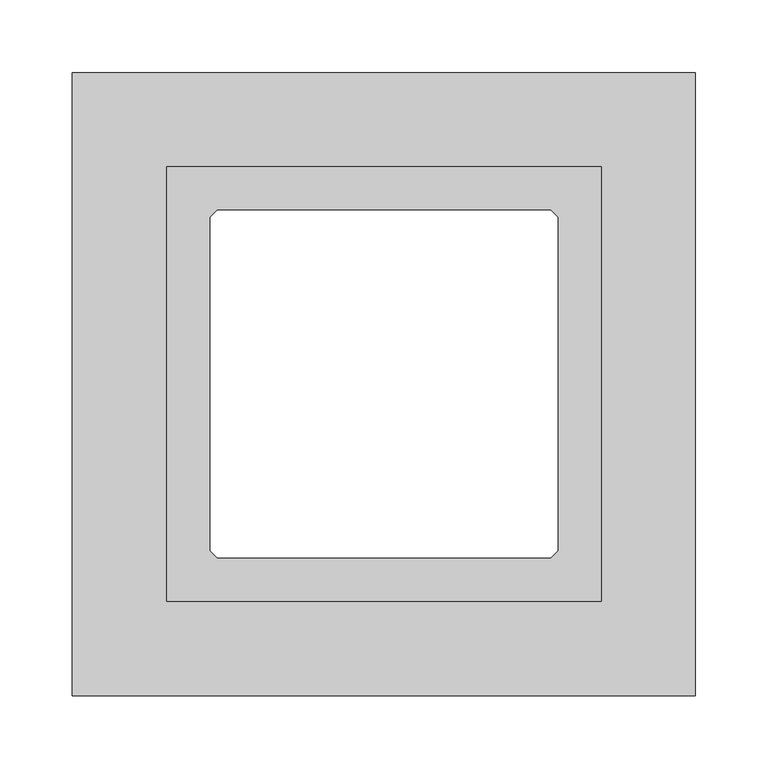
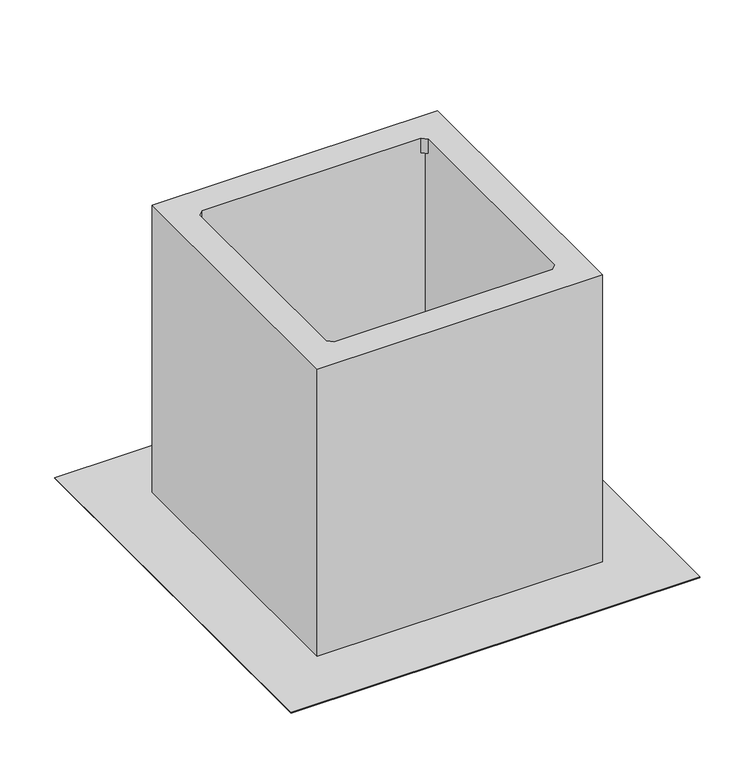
"""IFC4 building model written with IfcOpenShell, lengths in millimetres: duct fitting geometry, VE-Współdzielone-Podstawa_Dachowa-ParaForma-Harmann-DSF_AL : Harmann."""

from ifc_helpers import new_model, si_unit, origin, origin_with_axes, place, context, project, spatial, polyline, outline, extrude, faceted_brep, source, transform, mapped, element, save


def duct_fitting_c5ec652e(model_context):
    return source(origin(), model_context, "Body", "SolidModel", [
        faceted_brep([(150.0, 150.0, 1.0), (150.0, -150.0, 1.0), (-150.0, -150.0, 1.0), (-150.0, 150.0, 1.0), (120.0, 120.0, 1.0), (-120.0, 120.0, 1.0), (-120.0, -120.0, 1.0), (120.0, -120.0, 1.0), (150.0, 150.0, 320.0), (-150.0, 150.0, 320.0), (-150.0, -150.0, 320.0), (150.0, -150.0, 320.0), (-120.0, 115.0, 320.0), (-115.0, 120.0, 320.0), (115.0, 120.0, 320.0), (120.0, 115.0, 320.0), (120.0, -115.0, 320.0), (115.0, -120.0, 320.0), (-115.0, -120.0, 320.0), (-120.0, -115.0, 320.0), (-120.0, 120.0, 304.0), (-120.0, 115.0, 304.0), (-120.0, -115.0, 304.0), (-120.0, -120.0, 304.0), (-115.0, -120.0, 304.0), (115.0, -120.0, 304.0), (120.0, -120.0, 304.0), (120.0, -115.0, 304.0), (120.0, 115.0, 304.0), (120.0, 120.0, 304.0), (115.0, 120.0, 304.0), (-115.0, 120.0, 304.0)], [[[0, 1, 2, 3], [4, 5, 6, 7]], [[8, 9, 10, 11], [12, 13, 14, 15, 16, 17, 18, 19]], [[1, 0, 8, 11]], [[2, 1, 11, 10]], [[3, 2, 10, 9]], [[0, 3, 9, 8]], [[5, 20, 21, 12, 19, 22, 23, 6]], [[19, 18, 24, 22]], [[6, 23, 24, 18, 17, 25, 26, 7]], [[17, 16, 27, 25]], [[7, 26, 27, 16, 15, 28, 29, 4]], [[15, 14, 30, 28]], [[4, 29, 30, 14, 13, 31, 20, 5]], [[13, 12, 21, 31]], [[21, 20, 31]], [[23, 22, 24]], [[26, 25, 27]], [[29, 28, 30]]]),
        extrude(outline(polyline([(215.0, 215.0), (215.0, -215.0), (-215.0, -215.0), (-215.0, 215.0), (215.0, 215.0)]), holes=[polyline([(120.0, 120.0), (-120.0, 120.0), (-120.0, -120.0), (120.0, -120.0), (120.0, 120.0)])]), origin_with_axes(), (0.0, 0.0, 1.0), 1.0),
    ])


if __name__ == "__main__":
    model = new_model("IFC4")
    model_context = context("Model", 3, world=origin())
    ifc_project = project(units=[si_unit("LENGTHUNIT", "METRE", prefix="MILLI")], contexts=[model_context])
    site = spatial("IfcSite", under=ifc_project)
    building = spatial("IfcBuilding", under=site)
    placement = place(None, origin())
    duct_fitting_shape = duct_fitting_c5ec652e(model_context)
    element("IfcDuctFitting", 1, ObjectType="VE-Współdzielone-Podstawa_Dachowa-ParaForma-Harmann-DSF_AL : Harmann", at=placement, inside=building, context=model_context, shape_type="MappedRepresentation", body=[
        mapped(duct_fitting_shape, transform((0.0, 0.0, 0.0), x_axis=(1.0, 0.0, 0.0), y_axis=(0.0, 1.0, 0.0), z_axis=(0.0, 0.0, 1.0))),
    ])
    save(model, "model.ifc")
